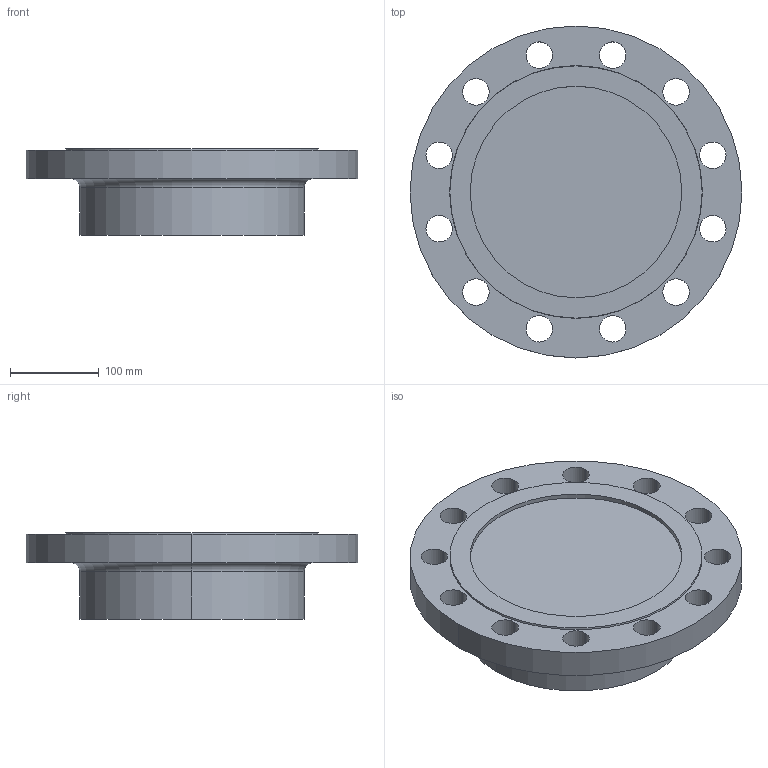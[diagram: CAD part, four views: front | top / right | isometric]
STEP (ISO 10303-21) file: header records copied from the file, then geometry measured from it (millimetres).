
FILE_DESCRIPTION (( 'STEP AP214' ), '1' );
FILE_NAME ('PN40 DN200 Type 21(i) - Type G Face.STEP', '2019-01-05T02:04:16', ( '' ), ( '' ), 'SwSTEP 2.0', 'SolidWorks 2019', '' );
FILE_SCHEMA (( 'AUTOMOTIVE_DESIGN' ));
Length unit declared in the file: millimetre
Products named in the file (1): PN40 DN200 Type 21(i) - Type G Face
Bounding box: 375 x 375 x 98 mm (x, y, z)
Volume: 6426801.9 mm3; surface area: 330766.9 mm2
Topology: 1 solids, 1 shells, 39 faces, 100 edges, 66 vertices
Faces by surface type: cylinder 30, plane 5, torus 2, cone 2
Entity records: 1308 total; most frequent: DIRECTION 248, CARTESIAN_POINT 206, ORIENTED_EDGE 200, AXIS2_PLACEMENT_3D 108, EDGE_CURVE 100, CIRCLE 68, VERTEX_POINT 66, EDGE_LOOP 66
